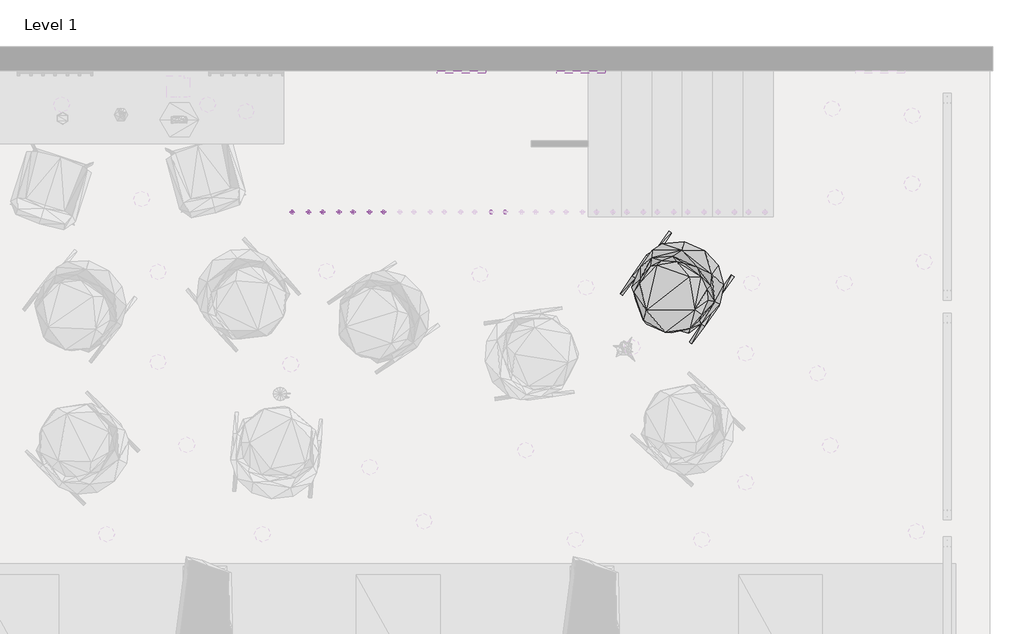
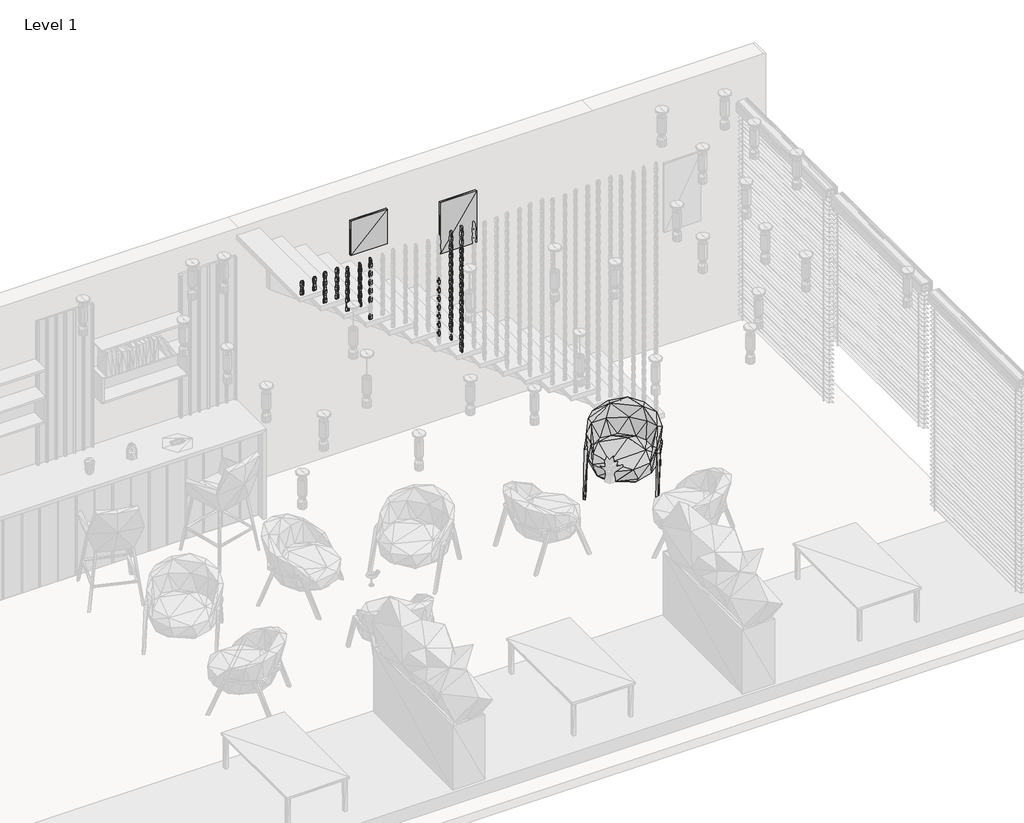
# One storey, part 4 of 12: 104 proxies, 3 geographic elements.
"""IFC4 building model written with IfcOpenShell, lengths in millimetres."""

from ifc_helpers import new_model, si_unit, origin, place, context, project, spatial, transform, mapped, element, save
from components import family1_family1_50133a43, family1_family1_d3af85bb, enscape_assetdefinition_lounge_armchair_12_enscape_3d8580c7, enscape_assetdefinition_wall_frame_02_enscape_4efbea40, enscape_assetdefinition_wall_frame_enscape_assetdefinition_9bfa83ed

model = new_model("IFC4")

# Units and contexts
model_context = context("Model", 3, world=origin())
ifc_project = project(units=[si_unit("LENGTHUNIT", "METRE", prefix="MILLI")], contexts=[model_context])

# Site, building, storey
site = spatial("IfcSite", under=ifc_project)
building = spatial("IfcBuilding", under=site)
storey = spatial("IfcBuildingStorey", under=building, Name="Level 1", Elevation=0.0)

# Proxies
placement = place(None, origin())
family1_family1_shape = family1_family1_50133a43(model_context)
element("IfcBuildingElementProxy", 1, Name="Family1 : Family1", ObjectType="Family1 : Family1", at=placement, inside=storey, context=model_context, shape_type="MappedRepresentation", body=[
    mapped(family1_family1_shape, transform((12865.1232124, 1139.760891, 574.0095089), x_axis=(-0.03315618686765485, 0.0, 0.9994501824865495), y_axis=(-0.9994501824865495, 0.0, -0.03315618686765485), z_axis=(0.0, -1.0, 0.0))),
])
element("IfcBuildingElementProxy", 2, Name="Family1 : Family1", ObjectType="Family1 : Family1", at=placement, inside=storey, context=model_context, shape_type="MappedRepresentation", body=[
    mapped(family1_family1_shape, transform((12865.1232124, 1139.760891, 674.0095089), x_axis=(-0.03315618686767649, 0.0, 0.9994501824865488), y_axis=(-0.9994501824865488, 0.0, -0.03315618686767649), z_axis=(0.0, -1.0, 0.0))),
])
element("IfcBuildingElementProxy", 3, Name="Family1 : Family1", ObjectType="Family1 : Family1", at=placement, inside=storey, context=model_context, shape_type="MappedRepresentation", body=[
    mapped(family1_family1_shape, transform((12865.1232124, 1139.760891, 774.0095089), x_axis=(-0.03315618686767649, 0.0, 0.9994501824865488), y_axis=(-0.9994501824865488, 0.0, -0.03315618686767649), z_axis=(0.0, -1.0, 0.0))),
])
element("IfcBuildingElementProxy", 4, Name="Family1 : Family1", ObjectType="Family1 : Family1", at=placement, inside=storey, context=model_context, shape_type="MappedRepresentation", body=[
    mapped(family1_family1_shape, transform((12865.1232124, 1139.760891, 874.0095089), x_axis=(-0.03315618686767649, 0.0, 0.9994501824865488), y_axis=(-0.9994501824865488, 0.0, -0.03315618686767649), z_axis=(0.0, -1.0, 0.0))),
])
element("IfcBuildingElementProxy", 5, Name="Family1 : Family1", ObjectType="Family1 : Family1", at=placement, inside=storey, context=model_context, shape_type="MappedRepresentation", body=[
    mapped(family1_family1_shape, transform((12865.1232124, 1139.760891, 974.0095089), x_axis=(-0.03315618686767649, 0.0, 0.9994501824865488), y_axis=(-0.9994501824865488, 0.0, -0.03315618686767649), z_axis=(0.0, -1.0, 0.0))),
])
element("IfcBuildingElementProxy", 6, Name="Family1 : Family1", ObjectType="Family1 : Family1", at=placement, inside=storey, context=model_context, shape_type="MappedRepresentation", body=[
    mapped(family1_family1_shape, transform((12865.1232124, 1139.760891, 1074.0095089), x_axis=(-0.03315618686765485, 0.0, 0.9994501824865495), y_axis=(-0.9994501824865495, 0.0, -0.03315618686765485), z_axis=(0.0, -1.0, 0.0))),
])
element("IfcBuildingElementProxy", 7, Name="Family1 : Family1", ObjectType="Family1 : Family1", at=placement, inside=storey, context=model_context, shape_type="MappedRepresentation", body=[
    mapped(family1_family1_shape, transform((12865.1232124, 1139.760891, 1174.0095089), x_axis=(-0.03315618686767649, 0.0, 0.9994501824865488), y_axis=(-0.9994501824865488, 0.0, -0.03315618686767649), z_axis=(0.0, -1.0, 0.0))),
])
element("IfcBuildingElementProxy", 8, Name="Family1 : Family1", ObjectType="Family1 : Family1", at=placement, inside=storey, context=model_context, shape_type="MappedRepresentation", body=[
    mapped(family1_family1_shape, transform((12865.1232124, 1139.760891, 1274.0095089), x_axis=(-0.03315618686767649, 0.0, 0.9994501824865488), y_axis=(-0.9994501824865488, 0.0, -0.03315618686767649), z_axis=(0.0, -1.0, 0.0))),
])
element("IfcBuildingElementProxy", 9, Name="Family1 : Family1", ObjectType="Family1 : Family1", at=placement, inside=storey, context=model_context, shape_type="MappedRepresentation", body=[
    mapped(family1_family1_shape, transform((12865.1232124, 1139.760891, 1374.0095089), x_axis=(-0.03315618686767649, 0.0, 0.9994501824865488), y_axis=(-0.9994501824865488, 0.0, -0.03315618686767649), z_axis=(0.0, -1.0, 0.0))),
])
element("IfcBuildingElementProxy", 10, Name="Family1 : Family1", ObjectType="Family1 : Family1", at=placement, inside=storey, context=model_context, shape_type="MappedRepresentation", body=[
    mapped(family1_family1_shape, transform((12865.1232124, 1139.760891, 1474.0095089), x_axis=(-0.03315618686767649, 0.0, 0.9994501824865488), y_axis=(-0.9994501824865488, 0.0, -0.03315618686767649), z_axis=(0.0, -1.0, 0.0))),
])
element("IfcBuildingElementProxy", 11, Name="Family1 : Family1", ObjectType="Family1 : Family1", at=placement, inside=storey, context=model_context, shape_type="MappedRepresentation", body=[
    mapped(family1_family1_shape, transform((12865.1232124, 1139.760891, 474.0095089), x_axis=(-0.03315618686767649, 0.0, 0.9994501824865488), y_axis=(-0.9994501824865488, 0.0, -0.03315618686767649), z_axis=(0.0, -1.0, 0.0))),
])
element("IfcBuildingElementProxy", 12, Name="Family1 : Family1", ObjectType="Family1 : Family1", at=placement, inside=storey, context=model_context, shape_type="MappedRepresentation", body=[
    mapped(family1_family1_shape, transform((12865.1232124, 1139.760891, 374.0095089), x_axis=(-0.03315618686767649, 0.0, 0.9994501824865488), y_axis=(-0.9994501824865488, 0.0, -0.03315618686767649), z_axis=(0.0, -1.0, 0.0))),
])
element("IfcBuildingElementProxy", 13, Name="Family1 : Family1", ObjectType="Family1 : Family1", at=placement, inside=storey, context=model_context, shape_type="MappedRepresentation", body=[
    mapped(family1_family1_shape, transform((12865.1232124, 1139.760891, 1574.0095089), x_axis=(-0.03315618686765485, 0.0, 0.9994501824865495), y_axis=(-0.9994501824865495, 0.0, -0.03315618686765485), z_axis=(0.0, -1.0, 0.0))),
])
element("IfcBuildingElementProxy", 14, Name="Family1 : Family1", ObjectType="Family1 : Family1", at=placement, inside=storey, context=model_context, shape_type="MappedRepresentation", body=[
    mapped(family1_family1_shape, transform((12865.1232124, 1139.760891, 1674.0095089), x_axis=(-0.03315618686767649, 0.0, 0.9994501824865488), y_axis=(-0.9994501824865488, 0.0, -0.03315618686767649), z_axis=(0.0, -1.0, 0.0))),
])
element("IfcBuildingElementProxy", 15, Name="Family1 : Family1", ObjectType="Family1 : Family1", at=placement, inside=storey, context=model_context, shape_type="MappedRepresentation", body=[
    mapped(family1_family1_shape, transform((12865.1232124, 1139.760891, 1774.0095089), x_axis=(-0.03315618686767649, 0.0, 0.9994501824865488), y_axis=(-0.9994501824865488, 0.0, -0.03315618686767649), z_axis=(0.0, -1.0, 0.0))),
])
element("IfcBuildingElementProxy", 16, Name="Family1 : Family1", ObjectType="Family1 : Family1", at=placement, inside=storey, context=model_context, shape_type="MappedRepresentation", body=[
    mapped(family1_family1_shape, transform((12750.1232124, 1139.760891, 656.36245), x_axis=(-0.03315618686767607, 0.0, 0.9994501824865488), y_axis=(-0.9994501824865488, 0.0, -0.03315618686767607), z_axis=(0.0, -1.0, 0.0))),
])
element("IfcBuildingElementProxy", 17, Name="Family1 : Family1", ObjectType="Family1 : Family1", at=placement, inside=storey, context=model_context, shape_type="MappedRepresentation", body=[
    mapped(family1_family1_shape, transform((12750.1232124, 1139.760891, 756.36245), x_axis=(-0.03315618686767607, 0.0, 0.9994501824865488), y_axis=(-0.9994501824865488, 0.0, -0.03315618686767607), z_axis=(0.0, -1.0, 0.0))),
])
element("IfcBuildingElementProxy", 18, Name="Family1 : Family1", ObjectType="Family1 : Family1", at=placement, inside=storey, context=model_context, shape_type="MappedRepresentation", body=[
    mapped(family1_family1_shape, transform((12750.1232124, 1139.760891, 856.36245), x_axis=(-0.033156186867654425, 0.0, 0.9994501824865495), y_axis=(-0.9994501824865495, 0.0, -0.033156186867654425), z_axis=(0.0, -1.0, 0.0))),
])
element("IfcBuildingElementProxy", 19, Name="Family1 : Family1", ObjectType="Family1 : Family1", at=placement, inside=storey, context=model_context, shape_type="MappedRepresentation", body=[
    mapped(family1_family1_shape, transform((12750.1232124, 1139.760891, 956.36245), x_axis=(-0.03315618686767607, 0.0, 0.9994501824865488), y_axis=(-0.9994501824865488, 0.0, -0.03315618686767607), z_axis=(0.0, -1.0, 0.0))),
])
element("IfcBuildingElementProxy", 20, Name="Family1 : Family1", ObjectType="Family1 : Family1", at=placement, inside=storey, context=model_context, shape_type="MappedRepresentation", body=[
    mapped(family1_family1_shape, transform((12750.1232124, 1139.760891, 1056.36245), x_axis=(-0.03315618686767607, 0.0, 0.9994501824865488), y_axis=(-0.9994501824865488, 0.0, -0.03315618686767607), z_axis=(0.0, -1.0, 0.0))),
])
element("IfcBuildingElementProxy", 21, Name="Family1 : Family1", ObjectType="Family1 : Family1", at=placement, inside=storey, context=model_context, shape_type="MappedRepresentation", body=[
    mapped(family1_family1_shape, transform((12750.1232124, 1139.760891, 1156.36245), x_axis=(-0.03315618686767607, 0.0, 0.9994501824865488), y_axis=(-0.9994501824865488, 0.0, -0.03315618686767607), z_axis=(0.0, -1.0, 0.0))),
])
element("IfcBuildingElementProxy", 22, Name="Family1 : Family1", ObjectType="Family1 : Family1", at=placement, inside=storey, context=model_context, shape_type="MappedRepresentation", body=[
    mapped(family1_family1_shape, transform((12750.1232124, 1139.760891, 1256.36245), x_axis=(-0.03315618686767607, 0.0, 0.9994501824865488), y_axis=(-0.9994501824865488, 0.0, -0.03315618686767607), z_axis=(0.0, -1.0, 0.0))),
])
element("IfcBuildingElementProxy", 23, Name="Family1 : Family1", ObjectType="Family1 : Family1", at=placement, inside=storey, context=model_context, shape_type="MappedRepresentation", body=[
    mapped(family1_family1_shape, transform((12750.1232124, 1139.760891, 1356.36245), x_axis=(-0.03315618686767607, 0.0, 0.9994501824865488), y_axis=(-0.9994501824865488, 0.0, -0.03315618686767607), z_axis=(0.0, -1.0, 0.0))),
])
element("IfcBuildingElementProxy", 24, Name="Family1 : Family1", ObjectType="Family1 : Family1", at=placement, inside=storey, context=model_context, shape_type="MappedRepresentation", body=[
    mapped(family1_family1_shape, transform((12750.1232124, 1139.760891, 1456.36245), x_axis=(-0.03315618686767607, 0.0, 0.9994501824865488), y_axis=(-0.9994501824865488, 0.0, -0.03315618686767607), z_axis=(0.0, -1.0, 0.0))),
])
element("IfcBuildingElementProxy", 25, Name="Family1 : Family1", ObjectType="Family1 : Family1", at=placement, inside=storey, context=model_context, shape_type="MappedRepresentation", body=[
    mapped(family1_family1_shape, transform((12750.1232124, 1139.760891, 1556.36245), x_axis=(-0.03315618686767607, 0.0, 0.9994501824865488), y_axis=(-0.9994501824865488, 0.0, -0.03315618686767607), z_axis=(0.0, -1.0, 0.0))),
])
element("IfcBuildingElementProxy", 26, Name="Family1 : Family1", ObjectType="Family1 : Family1", at=placement, inside=storey, context=model_context, shape_type="MappedRepresentation", body=[
    mapped(family1_family1_shape, transform((12750.1232124, 1139.760891, 556.36245), x_axis=(-0.03315618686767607, 0.0, 0.9994501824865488), y_axis=(-0.9994501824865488, 0.0, -0.03315618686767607), z_axis=(0.0, -1.0, 0.0))),
])
element("IfcBuildingElementProxy", 27, Name="Family1 : Family1", ObjectType="Family1 : Family1", at=placement, inside=storey, context=model_context, shape_type="MappedRepresentation", body=[
    mapped(family1_family1_shape, transform((12750.1232124, 1139.760891, 1656.36245), x_axis=(-0.03315618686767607, 0.0, 0.9994501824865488), y_axis=(-0.9994501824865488, 0.0, -0.03315618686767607), z_axis=(0.0, -1.0, 0.0))),
])
element("IfcBuildingElementProxy", 28, Name="Family1 : Family1", ObjectType="Family1 : Family1", at=placement, inside=storey, context=model_context, shape_type="MappedRepresentation", body=[
    mapped(family1_family1_shape, transform((12750.1232124, 1139.760891, 1756.36245), x_axis=(-0.03315618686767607, 0.0, 0.9994501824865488), y_axis=(-0.9994501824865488, 0.0, -0.03315618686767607), z_axis=(0.0, -1.0, 0.0))),
])
element("IfcBuildingElementProxy", 29, Name="Family1 : Family1", ObjectType="Family1 : Family1", at=placement, inside=storey, context=model_context, shape_type="MappedRepresentation", body=[
    mapped(family1_family1_shape, transform((12615.1232124, 1139.760891, 656.36245), x_axis=(-0.03315618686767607, 0.0, 0.9994501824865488), y_axis=(-0.9994501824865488, 0.0, -0.03315618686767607), z_axis=(0.0, -1.0, 0.0))),
])
element("IfcBuildingElementProxy", 30, Name="Family1 : Family1", ObjectType="Family1 : Family1", at=placement, inside=storey, context=model_context, shape_type="MappedRepresentation", body=[
    mapped(family1_family1_shape, transform((12615.1232124, 1139.760891, 756.36245), x_axis=(-0.03315618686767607, 0.0, 0.9994501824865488), y_axis=(-0.9994501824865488, 0.0, -0.03315618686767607), z_axis=(0.0, -1.0, 0.0))),
])
element("IfcBuildingElementProxy", 31, Name="Family1 : Family1", ObjectType="Family1 : Family1", at=placement, inside=storey, context=model_context, shape_type="MappedRepresentation", body=[
    mapped(family1_family1_shape, transform((12615.1232124, 1139.760891, 856.36245), x_axis=(-0.033156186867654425, 0.0, 0.9994501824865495), y_axis=(-0.9994501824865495, 0.0, -0.033156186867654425), z_axis=(0.0, -1.0, 0.0))),
])
element("IfcBuildingElementProxy", 32, Name="Family1 : Family1", ObjectType="Family1 : Family1", at=placement, inside=storey, context=model_context, shape_type="MappedRepresentation", body=[
    mapped(family1_family1_shape, transform((12615.1232124, 1139.760891, 956.36245), x_axis=(-0.03315618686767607, 0.0, 0.9994501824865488), y_axis=(-0.9994501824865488, 0.0, -0.03315618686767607), z_axis=(0.0, -1.0, 0.0))),
])
element("IfcBuildingElementProxy", 33, Name="Family1 : Family1", ObjectType="Family1 : Family1", at=placement, inside=storey, context=model_context, shape_type="MappedRepresentation", body=[
    mapped(family1_family1_shape, transform((12615.1232124, 1139.760891, 1056.36245), x_axis=(-0.03315618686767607, 0.0, 0.9994501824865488), y_axis=(-0.9994501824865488, 0.0, -0.03315618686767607), z_axis=(0.0, -1.0, 0.0))),
])
element("IfcBuildingElementProxy", 34, Name="Family1 : Family1", ObjectType="Family1 : Family1", at=placement, inside=storey, context=model_context, shape_type="MappedRepresentation", body=[
    mapped(family1_family1_shape, transform((12615.1232124, 1139.760891, 1156.36245), x_axis=(-0.03315618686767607, 0.0, 0.9994501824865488), y_axis=(-0.9994501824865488, 0.0, -0.03315618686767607), z_axis=(0.0, -1.0, 0.0))),
])
element("IfcBuildingElementProxy", 35, Name="Family1 : Family1", ObjectType="Family1 : Family1", at=placement, inside=storey, context=model_context, shape_type="MappedRepresentation", body=[
    mapped(family1_family1_shape, transform((12615.1232124, 1139.760891, 1256.36245), x_axis=(-0.03315618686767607, 0.0, 0.9994501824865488), y_axis=(-0.9994501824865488, 0.0, -0.03315618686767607), z_axis=(0.0, -1.0, 0.0))),
])
element("IfcBuildingElementProxy", 36, Name="Family1 : Family1", ObjectType="Family1 : Family1", at=placement, inside=storey, context=model_context, shape_type="MappedRepresentation", body=[
    mapped(family1_family1_shape, transform((11750.1232124, 1139.760891, 1335.7742147), x_axis=(-0.033156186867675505, 0.0, 0.9994501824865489), y_axis=(-0.9994501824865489, 0.0, -0.033156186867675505), z_axis=(0.0, -1.0, 0.0))),
])
element("IfcBuildingElementProxy", 37, Name="Family1 : Family1", ObjectType="Family1 : Family1", at=placement, inside=storey, context=model_context, shape_type="MappedRepresentation", body=[
    mapped(family1_family1_shape, transform((11750.1232124, 1139.760891, 1435.7742147), x_axis=(-0.033156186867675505, 0.0, 0.9994501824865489), y_axis=(-0.9994501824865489, 0.0, -0.033156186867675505), z_axis=(0.0, -1.0, 0.0))),
])
element("IfcBuildingElementProxy", 38, Name="Family1 : Family1", ObjectType="Family1 : Family1", at=placement, inside=storey, context=model_context, shape_type="MappedRepresentation", body=[
    mapped(family1_family1_shape, transform((11750.1232124, 1139.760891, 1535.7742147), x_axis=(-0.03315618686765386, 0.0, 0.9994501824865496), y_axis=(-0.9994501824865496, 0.0, -0.03315618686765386), z_axis=(0.0, -1.0, 0.0))),
])
element("IfcBuildingElementProxy", 39, Name="Family1 : Family1", ObjectType="Family1 : Family1", at=placement, inside=storey, context=model_context, shape_type="MappedRepresentation", body=[
    mapped(family1_family1_shape, transform((11750.1232124, 1139.760891, 1635.7742147), x_axis=(-0.033156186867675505, 0.0, 0.9994501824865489), y_axis=(-0.9994501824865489, 0.0, -0.033156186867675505), z_axis=(0.0, -1.0, 0.0))),
])
element("IfcBuildingElementProxy", 40, Name="Family1 : Family1", ObjectType="Family1 : Family1", at=placement, inside=storey, context=model_context, shape_type="MappedRepresentation", body=[
    mapped(family1_family1_shape, transform((11615.1232124, 1139.760891, 1335.7742147), x_axis=(-0.033156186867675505, 0.0, 0.9994501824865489), y_axis=(-0.9994501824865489, 0.0, -0.033156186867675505), z_axis=(0.0, -1.0, 0.0))),
])
element("IfcBuildingElementProxy", 41, Name="Family1 : Family1", ObjectType="Family1 : Family1", at=placement, inside=storey, context=model_context, shape_type="MappedRepresentation", body=[
    mapped(family1_family1_shape, transform((11615.1232124, 1139.760891, 1435.7742147), x_axis=(-0.033156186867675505, 0.0, 0.9994501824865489), y_axis=(-0.9994501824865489, 0.0, -0.033156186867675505), z_axis=(0.0, -1.0, 0.0))),
])
element("IfcBuildingElementProxy", 42, Name="Family1 : Family1", ObjectType="Family1 : Family1", at=placement, inside=storey, context=model_context, shape_type="MappedRepresentation", body=[
    mapped(family1_family1_shape, transform((11615.1232124, 1139.760891, 1535.7742147), x_axis=(-0.03315618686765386, 0.0, 0.9994501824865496), y_axis=(-0.9994501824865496, 0.0, -0.03315618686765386), z_axis=(0.0, -1.0, 0.0))),
])
element("IfcBuildingElementProxy", 43, Name="Family1 : Family1", ObjectType="Family1 : Family1", at=placement, inside=storey, context=model_context, shape_type="MappedRepresentation", body=[
    mapped(family1_family1_shape, transform((11615.1232124, 1139.760891, 1635.7742147), x_axis=(-0.033156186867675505, 0.0, 0.9994501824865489), y_axis=(-0.9994501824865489, 0.0, -0.033156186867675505), z_axis=(0.0, -1.0, 0.0))),
])
element("IfcBuildingElementProxy", 44, Name="Family1 : Family1", ObjectType="Family1 : Family1", at=placement, inside=storey, context=model_context, shape_type="MappedRepresentation", body=[
    mapped(family1_family1_shape, transform((11500.1232124, 1139.760891, 1518.1271559), x_axis=(-0.03315618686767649, 0.0, 0.9994501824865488), y_axis=(-0.9994501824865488, 0.0, -0.03315618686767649), z_axis=(0.0, -1.0, 0.0))),
])
element("IfcBuildingElementProxy", 45, Name="Family1 : Family1", ObjectType="Family1 : Family1", at=placement, inside=storey, context=model_context, shape_type="MappedRepresentation", body=[
    mapped(family1_family1_shape, transform((11500.1232124, 1139.760891, 1618.1271559), x_axis=(-0.03315618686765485, 0.0, 0.9994501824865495), y_axis=(-0.9994501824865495, 0.0, -0.03315618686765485), z_axis=(0.0, -1.0, 0.0))),
])
element("IfcBuildingElementProxy", 46, Name="Family1 : Family1", ObjectType="Family1 : Family1", at=placement, inside=storey, context=model_context, shape_type="MappedRepresentation", body=[
    mapped(family1_family1_shape, transform((11500.1232124, 1139.760891, 1718.1271559), x_axis=(-0.03315618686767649, 0.0, 0.9994501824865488), y_axis=(-0.9994501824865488, 0.0, -0.03315618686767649), z_axis=(0.0, -1.0, 0.0))),
])
element("IfcBuildingElementProxy", 47, Name="Family1 : Family1", ObjectType="Family1 : Family1", at=placement, inside=storey, context=model_context, shape_type="MappedRepresentation", body=[
    mapped(family1_family1_shape, transform((11365.1232124, 1139.760891, 1518.1271559), x_axis=(-0.03315618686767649, 0.0, 0.9994501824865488), y_axis=(-0.9994501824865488, 0.0, -0.03315618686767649), z_axis=(0.0, -1.0, 0.0))),
])
element("IfcBuildingElementProxy", 48, Name="Family1 : Family1", ObjectType="Family1 : Family1", at=placement, inside=storey, context=model_context, shape_type="MappedRepresentation", body=[
    mapped(family1_family1_shape, transform((11365.1232124, 1139.760891, 1618.1271559), x_axis=(-0.03315618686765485, 0.0, 0.9994501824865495), y_axis=(-0.9994501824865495, 0.0, -0.03315618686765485), z_axis=(0.0, -1.0, 0.0))),
])
element("IfcBuildingElementProxy", 49, Name="Family1 : Family1", ObjectType="Family1 : Family1", at=placement, inside=storey, context=model_context, shape_type="MappedRepresentation", body=[
    mapped(family1_family1_shape, transform((11365.1232124, 1139.760891, 1718.1271559), x_axis=(-0.03315618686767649, 0.0, 0.9994501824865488), y_axis=(-0.9994501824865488, 0.0, -0.03315618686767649), z_axis=(0.0, -1.0, 0.0))),
])
element("IfcBuildingElementProxy", 50, Name="Family1 : Family1", ObjectType="Family1 : Family1", at=placement, inside=storey, context=model_context, shape_type="MappedRepresentation", body=[
    mapped(family1_family1_shape, transform((11250.1232124, 1139.760891, 1700.4800971), x_axis=(-0.03315618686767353, 0.0, 0.9994501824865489), y_axis=(-0.9994501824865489, 0.0, -0.03315618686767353), z_axis=(0.0, -1.0, 0.0))),
])
element("IfcBuildingElementProxy", 51, Name="Family1 : Family1", ObjectType="Family1 : Family1", at=placement, inside=storey, context=model_context, shape_type="MappedRepresentation", body=[
    mapped(family1_family1_shape, transform((11115.1232124, 1139.760891, 1700.4800971), x_axis=(-0.03315618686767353, 0.0, 0.9994501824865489), y_axis=(-0.9994501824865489, 0.0, -0.03315618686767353), z_axis=(0.0, -1.0, 0.0))),
])
element("IfcBuildingElementProxy", 52, Name="Family1 : Family1", ObjectType="Family1 : Family1", at=placement, inside=storey, context=model_context, shape_type="MappedRepresentation", body=[
    mapped(family1_family1_shape, transform((11865.1232124, 1139.760891, 1753.4212736), x_axis=(-0.03315618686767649, 0.0, 0.9994501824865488), y_axis=(-0.9994501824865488, 0.0, -0.03315618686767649), z_axis=(0.0, -1.0, 0.0))),
])
element("IfcBuildingElementProxy", 53, Name="Family1 : Family1", ObjectType="Family1 : Family1", at=placement, inside=storey, context=model_context, shape_type="MappedRepresentation", body=[
    mapped(family1_family1_shape, transform((11750.1232124, 1139.760891, 1735.7742147), x_axis=(-0.033156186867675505, 0.0, 0.9994501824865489), y_axis=(-0.9994501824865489, 0.0, -0.033156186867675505), z_axis=(0.0, -1.0, 0.0))),
])
element("IfcBuildingElementProxy", 54, Name="Family1 : Family1", ObjectType="Family1 : Family1", at=placement, inside=storey, context=model_context, shape_type="MappedRepresentation", body=[
    mapped(family1_family1_shape, transform((11615.1232124, 1139.760891, 1735.7742147), x_axis=(-0.033156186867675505, 0.0, 0.9994501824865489), y_axis=(-0.9994501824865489, 0.0, -0.033156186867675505), z_axis=(0.0, -1.0, 0.0))),
])
family1_family1_2_shape = family1_family1_d3af85bb(model_context)
element("IfcBuildingElementProxy", 55, Name="Family1 : Family1", ObjectType="Family1 : Family1", at=placement, inside=storey, context=model_context, shape_type="MappedRepresentation", body=[
    mapped(family1_family1_2_shape, transform((12865.1232124, 1139.760891, 624.0095089), x_axis=(-0.03315618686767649, 0.0, 0.9994501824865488), y_axis=(-0.9994501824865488, 0.0, -0.03315618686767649), z_axis=(0.0, -1.0, 0.0))),
])
element("IfcBuildingElementProxy", 56, Name="Family1 : Family1", ObjectType="Family1 : Family1", at=placement, inside=storey, context=model_context, shape_type="MappedRepresentation", body=[
    mapped(family1_family1_2_shape, transform((12865.1232124, 1139.760891, 724.0095089), x_axis=(-0.03315618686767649, 0.0, 0.9994501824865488), y_axis=(-0.9994501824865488, 0.0, -0.03315618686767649), z_axis=(0.0, -1.0, 0.0))),
])
element("IfcBuildingElementProxy", 57, Name="Family1 : Family1", ObjectType="Family1 : Family1", at=placement, inside=storey, context=model_context, shape_type="MappedRepresentation", body=[
    mapped(family1_family1_2_shape, transform((12865.1232124, 1139.760891, 824.0095089), x_axis=(-0.03315618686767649, 0.0, 0.9994501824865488), y_axis=(-0.9994501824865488, 0.0, -0.03315618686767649), z_axis=(0.0, -1.0, 0.0))),
])
element("IfcBuildingElementProxy", 58, Name="Family1 : Family1", ObjectType="Family1 : Family1", at=placement, inside=storey, context=model_context, shape_type="MappedRepresentation", body=[
    mapped(family1_family1_2_shape, transform((12865.1232124, 1139.760891, 924.0095089), x_axis=(-0.03315618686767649, 0.0, 0.9994501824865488), y_axis=(-0.9994501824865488, 0.0, -0.03315618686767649), z_axis=(0.0, -1.0, 0.0))),
])
element("IfcBuildingElementProxy", 59, Name="Family1 : Family1", ObjectType="Family1 : Family1", at=placement, inside=storey, context=model_context, shape_type="MappedRepresentation", body=[
    mapped(family1_family1_2_shape, transform((12865.1232124, 1139.760891, 1024.0095089), x_axis=(-0.03315618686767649, 0.0, 0.9994501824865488), y_axis=(-0.9994501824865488, 0.0, -0.03315618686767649), z_axis=(0.0, -1.0, 0.0))),
])
element("IfcBuildingElementProxy", 60, Name="Family1 : Family1", ObjectType="Family1 : Family1", at=placement, inside=storey, context=model_context, shape_type="MappedRepresentation", body=[
    mapped(family1_family1_2_shape, transform((12865.1232124, 1139.760891, 1124.0095089), x_axis=(-0.03315618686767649, 0.0, 0.9994501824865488), y_axis=(-0.9994501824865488, 0.0, -0.03315618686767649), z_axis=(0.0, -1.0, 0.0))),
])
element("IfcBuildingElementProxy", 61, Name="Family1 : Family1", ObjectType="Family1 : Family1", at=placement, inside=storey, context=model_context, shape_type="MappedRepresentation", body=[
    mapped(family1_family1_2_shape, transform((12865.1232124, 1139.760891, 1224.0095089), x_axis=(-0.03315618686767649, 0.0, 0.9994501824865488), y_axis=(-0.9994501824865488, 0.0, -0.03315618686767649), z_axis=(0.0, -1.0, 0.0))),
])
element("IfcBuildingElementProxy", 62, Name="Family1 : Family1", ObjectType="Family1 : Family1", at=placement, inside=storey, context=model_context, shape_type="MappedRepresentation", body=[
    mapped(family1_family1_2_shape, transform((12865.1232124, 1139.760891, 1324.0095089), x_axis=(-0.03315618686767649, 0.0, 0.9994501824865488), y_axis=(-0.9994501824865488, 0.0, -0.03315618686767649), z_axis=(0.0, -1.0, 0.0))),
])
element("IfcBuildingElementProxy", 63, Name="Family1 : Family1", ObjectType="Family1 : Family1", at=placement, inside=storey, context=model_context, shape_type="MappedRepresentation", body=[
    mapped(family1_family1_2_shape, transform((12865.1232124, 1139.760891, 1424.0095089), x_axis=(-0.03315618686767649, 0.0, 0.9994501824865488), y_axis=(-0.9994501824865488, 0.0, -0.03315618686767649), z_axis=(0.0, -1.0, 0.0))),
])
element("IfcBuildingElementProxy", 64, Name="Family1 : Family1", ObjectType="Family1 : Family1", at=placement, inside=storey, context=model_context, shape_type="MappedRepresentation", body=[
    mapped(family1_family1_2_shape, transform((12865.1232124, 1139.760891, 1524.0095089), x_axis=(-0.03315618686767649, 0.0, 0.9994501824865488), y_axis=(-0.9994501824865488, 0.0, -0.03315618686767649), z_axis=(0.0, -1.0, 0.0))),
])
element("IfcBuildingElementProxy", 65, Name="Family1 : Family1", ObjectType="Family1 : Family1", at=placement, inside=storey, context=model_context, shape_type="MappedRepresentation", body=[
    mapped(family1_family1_2_shape, transform((12865.1232124, 1139.760891, 524.0095089), x_axis=(-0.03315618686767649, 0.0, 0.9994501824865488), y_axis=(-0.9994501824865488, 0.0, -0.03315618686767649), z_axis=(0.0, -1.0, 0.0))),
])
element("IfcBuildingElementProxy", 66, Name="Family1 : Family1", ObjectType="Family1 : Family1", at=placement, inside=storey, context=model_context, shape_type="MappedRepresentation", body=[
    mapped(family1_family1_2_shape, transform((12865.1232124, 1139.760891, 424.0095089), x_axis=(-0.03315618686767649, 0.0, 0.9994501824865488), y_axis=(-0.9994501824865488, 0.0, -0.03315618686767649), z_axis=(0.0, -1.0, 0.0))),
])
element("IfcBuildingElementProxy", 67, Name="Family1 : Family1", ObjectType="Family1 : Family1", at=placement, inside=storey, context=model_context, shape_type="MappedRepresentation", body=[
    mapped(family1_family1_2_shape, transform((12750.1232124, 1139.760891, 706.36245), x_axis=(-0.03315618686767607, 0.0, 0.9994501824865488), y_axis=(-0.9994501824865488, 0.0, -0.03315618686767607), z_axis=(0.0, -1.0, 0.0))),
])
element("IfcBuildingElementProxy", 68, Name="Family1 : Family1", ObjectType="Family1 : Family1", at=placement, inside=storey, context=model_context, shape_type="MappedRepresentation", body=[
    mapped(family1_family1_2_shape, transform((12750.1232124, 1139.760891, 806.36245), x_axis=(-0.03315618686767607, 0.0, 0.9994501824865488), y_axis=(-0.9994501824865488, 0.0, -0.03315618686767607), z_axis=(0.0, -1.0, 0.0))),
])
element("IfcBuildingElementProxy", 69, Name="Family1 : Family1", ObjectType="Family1 : Family1", at=placement, inside=storey, context=model_context, shape_type="MappedRepresentation", body=[
    mapped(family1_family1_2_shape, transform((12750.1232124, 1139.760891, 906.36245), x_axis=(-0.03315618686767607, 0.0, 0.9994501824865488), y_axis=(-0.9994501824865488, 0.0, -0.03315618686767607), z_axis=(0.0, -1.0, 0.0))),
])
element("IfcBuildingElementProxy", 70, Name="Family1 : Family1", ObjectType="Family1 : Family1", at=placement, inside=storey, context=model_context, shape_type="MappedRepresentation", body=[
    mapped(family1_family1_2_shape, transform((12750.1232124, 1139.760891, 1006.36245), x_axis=(-0.03315618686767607, 0.0, 0.9994501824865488), y_axis=(-0.9994501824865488, 0.0, -0.03315618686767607), z_axis=(0.0, -1.0, 0.0))),
])
element("IfcBuildingElementProxy", 71, Name="Family1 : Family1", ObjectType="Family1 : Family1", at=placement, inside=storey, context=model_context, shape_type="MappedRepresentation", body=[
    mapped(family1_family1_2_shape, transform((12750.1232124, 1139.760891, 1106.36245), x_axis=(-0.03315618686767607, 0.0, 0.9994501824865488), y_axis=(-0.9994501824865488, 0.0, -0.03315618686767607), z_axis=(0.0, -1.0, 0.0))),
])
element("IfcBuildingElementProxy", 72, Name="Family1 : Family1", ObjectType="Family1 : Family1", at=placement, inside=storey, context=model_context, shape_type="MappedRepresentation", body=[
    mapped(family1_family1_2_shape, transform((12750.1232124, 1139.760891, 1206.36245), x_axis=(-0.03315618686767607, 0.0, 0.9994501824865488), y_axis=(-0.9994501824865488, 0.0, -0.03315618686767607), z_axis=(0.0, -1.0, 0.0))),
])
element("IfcBuildingElementProxy", 73, Name="Family1 : Family1", ObjectType="Family1 : Family1", at=placement, inside=storey, context=model_context, shape_type="MappedRepresentation", body=[
    mapped(family1_family1_2_shape, transform((12750.1232124, 1139.760891, 1306.36245), x_axis=(-0.03315618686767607, 0.0, 0.9994501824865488), y_axis=(-0.9994501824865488, 0.0, -0.03315618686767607), z_axis=(0.0, -1.0, 0.0))),
])
element("IfcBuildingElementProxy", 74, Name="Family1 : Family1", ObjectType="Family1 : Family1", at=placement, inside=storey, context=model_context, shape_type="MappedRepresentation", body=[
    mapped(family1_family1_2_shape, transform((12750.1232124, 1139.760891, 1406.36245), x_axis=(-0.03315618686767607, 0.0, 0.9994501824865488), y_axis=(-0.9994501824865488, 0.0, -0.03315618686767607), z_axis=(0.0, -1.0, 0.0))),
])
element("IfcBuildingElementProxy", 75, Name="Family1 : Family1", ObjectType="Family1 : Family1", at=placement, inside=storey, context=model_context, shape_type="MappedRepresentation", body=[
    mapped(family1_family1_2_shape, transform((12750.1232124, 1139.760891, 1506.36245), x_axis=(-0.033156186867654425, 0.0, 0.9994501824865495), y_axis=(-0.9994501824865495, 0.0, -0.033156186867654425), z_axis=(0.0, -1.0, 0.0))),
])
element("IfcBuildingElementProxy", 76, Name="Family1 : Family1", ObjectType="Family1 : Family1", at=placement, inside=storey, context=model_context, shape_type="MappedRepresentation", body=[
    mapped(family1_family1_2_shape, transform((12750.1232124, 1139.760891, 1606.36245), x_axis=(-0.03315618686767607, 0.0, 0.9994501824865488), y_axis=(-0.9994501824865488, 0.0, -0.03315618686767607), z_axis=(0.0, -1.0, 0.0))),
])
element("IfcBuildingElementProxy", 77, Name="Family1 : Family1", ObjectType="Family1 : Family1", at=placement, inside=storey, context=model_context, shape_type="MappedRepresentation", body=[
    mapped(family1_family1_2_shape, transform((11865.1232124, 1139.760891, 1303.4212736), x_axis=(-0.03315618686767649, 0.0, 0.9994501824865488), y_axis=(-0.9994501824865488, 0.0, -0.03315618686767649), z_axis=(0.0, -1.0, 0.0))),
])
element("IfcBuildingElementProxy", 78, Name="Family1 : Family1", ObjectType="Family1 : Family1", at=placement, inside=storey, context=model_context, shape_type="MappedRepresentation", body=[
    mapped(family1_family1_2_shape, transform((11865.1232124, 1139.760891, 1403.4212736), x_axis=(-0.03315618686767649, 0.0, 0.9994501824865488), y_axis=(-0.9994501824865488, 0.0, -0.03315618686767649), z_axis=(0.0, -1.0, 0.0))),
])
element("IfcBuildingElementProxy", 79, Name="Family1 : Family1", ObjectType="Family1 : Family1", at=placement, inside=storey, context=model_context, shape_type="MappedRepresentation", body=[
    mapped(family1_family1_2_shape, transform((11865.1232124, 1139.760891, 1503.4212736), x_axis=(-0.03315618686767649, 0.0, 0.9994501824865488), y_axis=(-0.9994501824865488, 0.0, -0.03315618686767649), z_axis=(0.0, -1.0, 0.0))),
])
element("IfcBuildingElementProxy", 80, Name="Family1 : Family1", ObjectType="Family1 : Family1", at=placement, inside=storey, context=model_context, shape_type="MappedRepresentation", body=[
    mapped(family1_family1_2_shape, transform((11865.1232124, 1139.760891, 1603.4212736), x_axis=(-0.03315618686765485, 0.0, 0.9994501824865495), y_axis=(-0.9994501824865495, 0.0, -0.03315618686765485), z_axis=(0.0, -1.0, 0.0))),
])
element("IfcBuildingElementProxy", 81, Name="Family1 : Family1", ObjectType="Family1 : Family1", at=placement, inside=storey, context=model_context, shape_type="MappedRepresentation", body=[
    mapped(family1_family1_2_shape, transform((11865.1232124, 1139.760891, 1703.4212736), x_axis=(-0.03315618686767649, 0.0, 0.9994501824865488), y_axis=(-0.9994501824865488, 0.0, -0.03315618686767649), z_axis=(0.0, -1.0, 0.0))),
])
element("IfcBuildingElementProxy", 82, Name="Family1 : Family1", ObjectType="Family1 : Family1", at=placement, inside=storey, context=model_context, shape_type="MappedRepresentation", body=[
    mapped(family1_family1_2_shape, transform((11750.1232124, 1139.760891, 1385.7742147), x_axis=(-0.033156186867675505, 0.0, 0.9994501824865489), y_axis=(-0.9994501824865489, 0.0, -0.033156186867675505), z_axis=(0.0, -1.0, 0.0))),
])
element("IfcBuildingElementProxy", 83, Name="Family1 : Family1", ObjectType="Family1 : Family1", at=placement, inside=storey, context=model_context, shape_type="MappedRepresentation", body=[
    mapped(family1_family1_2_shape, transform((11750.1232124, 1139.760891, 1485.7742147), x_axis=(-0.033156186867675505, 0.0, 0.9994501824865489), y_axis=(-0.9994501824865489, 0.0, -0.033156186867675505), z_axis=(0.0, -1.0, 0.0))),
])
element("IfcBuildingElementProxy", 84, Name="Family1 : Family1", ObjectType="Family1 : Family1", at=placement, inside=storey, context=model_context, shape_type="MappedRepresentation", body=[
    mapped(family1_family1_2_shape, transform((11750.1232124, 1139.760891, 1585.7742147), x_axis=(-0.033156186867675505, 0.0, 0.9994501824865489), y_axis=(-0.9994501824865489, 0.0, -0.033156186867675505), z_axis=(0.0, -1.0, 0.0))),
])
element("IfcBuildingElementProxy", 85, Name="Family1 : Family1", ObjectType="Family1 : Family1", at=placement, inside=storey, context=model_context, shape_type="MappedRepresentation", body=[
    mapped(family1_family1_2_shape, transform((11750.1232124, 1139.760891, 1685.7742147), x_axis=(-0.033156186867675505, 0.0, 0.9994501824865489), y_axis=(-0.9994501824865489, 0.0, -0.033156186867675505), z_axis=(0.0, -1.0, 0.0))),
])
element("IfcBuildingElementProxy", 86, Name="Family1 : Family1", ObjectType="Family1 : Family1", at=placement, inside=storey, context=model_context, shape_type="MappedRepresentation", body=[
    mapped(family1_family1_2_shape, transform((11615.1232124, 1139.760891, 1385.7742147), x_axis=(-0.033156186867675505, 0.0, 0.9994501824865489), y_axis=(-0.9994501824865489, 0.0, -0.033156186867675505), z_axis=(0.0, -1.0, 0.0))),
])
element("IfcBuildingElementProxy", 87, Name="Family1 : Family1", ObjectType="Family1 : Family1", at=placement, inside=storey, context=model_context, shape_type="MappedRepresentation", body=[
    mapped(family1_family1_2_shape, transform((11615.1232124, 1139.760891, 1485.7742147), x_axis=(-0.033156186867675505, 0.0, 0.9994501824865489), y_axis=(-0.9994501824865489, 0.0, -0.033156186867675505), z_axis=(0.0, -1.0, 0.0))),
])
element("IfcBuildingElementProxy", 88, Name="Family1 : Family1", ObjectType="Family1 : Family1", at=placement, inside=storey, context=model_context, shape_type="MappedRepresentation", body=[
    mapped(family1_family1_2_shape, transform((11615.1232124, 1139.760891, 1585.7742147), x_axis=(-0.033156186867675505, 0.0, 0.9994501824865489), y_axis=(-0.9994501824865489, 0.0, -0.033156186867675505), z_axis=(0.0, -1.0, 0.0))),
])
element("IfcBuildingElementProxy", 89, Name="Family1 : Family1", ObjectType="Family1 : Family1", at=placement, inside=storey, context=model_context, shape_type="MappedRepresentation", body=[
    mapped(family1_family1_2_shape, transform((11615.1232124, 1139.760891, 1685.7742147), x_axis=(-0.033156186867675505, 0.0, 0.9994501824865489), y_axis=(-0.9994501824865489, 0.0, -0.033156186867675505), z_axis=(0.0, -1.0, 0.0))),
])
element("IfcBuildingElementProxy", 90, Name="Family1 : Family1", ObjectType="Family1 : Family1", at=placement, inside=storey, context=model_context, shape_type="MappedRepresentation", body=[
    mapped(family1_family1_2_shape, transform((11500.1232124, 1139.760891, 1568.1271559), x_axis=(-0.03315618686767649, 0.0, 0.9994501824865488), y_axis=(-0.9994501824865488, 0.0, -0.03315618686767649), z_axis=(0.0, -1.0, 0.0))),
])
element("IfcBuildingElementProxy", 91, Name="Family1 : Family1", ObjectType="Family1 : Family1", at=placement, inside=storey, context=model_context, shape_type="MappedRepresentation", body=[
    mapped(family1_family1_2_shape, transform((11500.1232124, 1139.760891, 1668.1271559), x_axis=(-0.03315618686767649, 0.0, 0.9994501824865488), y_axis=(-0.9994501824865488, 0.0, -0.03315618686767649), z_axis=(0.0, -1.0, 0.0))),
])
element("IfcBuildingElementProxy", 92, Name="Family1 : Family1", ObjectType="Family1 : Family1", at=placement, inside=storey, context=model_context, shape_type="MappedRepresentation", body=[
    mapped(family1_family1_2_shape, transform((11365.1232124, 1139.760891, 1568.1271559), x_axis=(-0.03315618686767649, 0.0, 0.9994501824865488), y_axis=(-0.9994501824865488, 0.0, -0.03315618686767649), z_axis=(0.0, -1.0, 0.0))),
])
element("IfcBuildingElementProxy", 93, Name="Family1 : Family1", ObjectType="Family1 : Family1", at=placement, inside=storey, context=model_context, shape_type="MappedRepresentation", body=[
    mapped(family1_family1_2_shape, transform((11365.1232124, 1139.760891, 1668.1271559), x_axis=(-0.03315618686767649, 0.0, 0.9994501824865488), y_axis=(-0.9994501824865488, 0.0, -0.03315618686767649), z_axis=(0.0, -1.0, 0.0))),
])
element("IfcBuildingElementProxy", 94, Name="Family1 : Family1", ObjectType="Family1 : Family1", at=placement, inside=storey, context=model_context, shape_type="MappedRepresentation", body=[
    mapped(family1_family1_2_shape, transform((11865.1232124, 1139.760891, 1103.4212736), x_axis=(-0.03315618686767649, 0.0, 0.9994501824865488), y_axis=(-0.9994501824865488, 0.0, -0.03315618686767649), z_axis=(0.0, -1.0, 0.0))),
])
element("IfcBuildingElementProxy", 95, Name="Family1 : Family1", ObjectType="Family1 : Family1", at=placement, inside=storey, context=model_context, shape_type="MappedRepresentation", body=[
    mapped(family1_family1_2_shape, transform((11750.1232124, 1139.760891, 1285.7742147), x_axis=(-0.033156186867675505, 0.0, 0.9994501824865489), y_axis=(-0.9994501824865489, 0.0, -0.033156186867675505), z_axis=(0.0, -1.0, 0.0))),
])
element("IfcBuildingElementProxy", 96, Name="Family1 : Family1", ObjectType="Family1 : Family1", at=placement, inside=storey, context=model_context, shape_type="MappedRepresentation", body=[
    mapped(family1_family1_2_shape, transform((11615.1232124, 1139.760891, 1285.7742147), x_axis=(-0.033156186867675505, 0.0, 0.9994501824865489), y_axis=(-0.9994501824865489, 0.0, -0.033156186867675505), z_axis=(0.0, -1.0, 0.0))),
])
element("IfcBuildingElementProxy", 97, Name="Family1 : Family1", ObjectType="Family1 : Family1", at=placement, inside=storey, context=model_context, shape_type="MappedRepresentation", body=[
    mapped(family1_family1_2_shape, transform((11500.1232124, 1139.760891, 1468.1271559), x_axis=(-0.03315618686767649, 0.0, 0.9994501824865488), y_axis=(-0.9994501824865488, 0.0, -0.03315618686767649), z_axis=(0.0, -1.0, 0.0))),
])
element("IfcBuildingElementProxy", 98, Name="Family1 : Family1", ObjectType="Family1 : Family1", at=placement, inside=storey, context=model_context, shape_type="MappedRepresentation", body=[
    mapped(family1_family1_2_shape, transform((11500.1232124, 1139.760891, 1768.1271559), x_axis=(-0.03315618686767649, 0.0, 0.9994501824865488), y_axis=(-0.9994501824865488, 0.0, -0.03315618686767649), z_axis=(0.0, -1.0, 0.0))),
])
element("IfcBuildingElementProxy", 99, Name="Family1 : Family1", ObjectType="Family1 : Family1", at=placement, inside=storey, context=model_context, shape_type="MappedRepresentation", body=[
    mapped(family1_family1_2_shape, transform((11365.1232124, 1139.760891, 1468.1271559), x_axis=(-0.03315618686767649, 0.0, 0.9994501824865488), y_axis=(-0.9994501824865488, 0.0, -0.03315618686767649), z_axis=(0.0, -1.0, 0.0))),
])
element("IfcBuildingElementProxy", 100, Name="Family1 : Family1", ObjectType="Family1 : Family1", at=placement, inside=storey, context=model_context, shape_type="MappedRepresentation", body=[
    mapped(family1_family1_2_shape, transform((11365.1232124, 1139.760891, 1768.1271559), x_axis=(-0.03315618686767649, 0.0, 0.9994501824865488), y_axis=(-0.9994501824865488, 0.0, -0.03315618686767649), z_axis=(0.0, -1.0, 0.0))),
])
element("IfcBuildingElementProxy", 101, Name="Family1 : Family1", ObjectType="Family1 : Family1", at=placement, inside=storey, context=model_context, shape_type="MappedRepresentation", body=[
    mapped(family1_family1_2_shape, transform((11250.1232124, 1139.760891, 1650.4800971), x_axis=(-0.03315618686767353, 0.0, 0.9994501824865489), y_axis=(-0.9994501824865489, 0.0, -0.03315618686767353), z_axis=(0.0, -1.0, 0.0))),
])
element("IfcBuildingElementProxy", 102, Name="Family1 : Family1", ObjectType="Family1 : Family1", at=placement, inside=storey, context=model_context, shape_type="MappedRepresentation", body=[
    mapped(family1_family1_2_shape, transform((11250.1232124, 1139.760891, 1750.4800971), x_axis=(-0.03315618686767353, 0.0, 0.9994501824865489), y_axis=(-0.9994501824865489, 0.0, -0.03315618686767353), z_axis=(0.0, -1.0, 0.0))),
])
element("IfcBuildingElementProxy", 103, Name="Family1 : Family1", ObjectType="Family1 : Family1", at=placement, inside=storey, context=model_context, shape_type="MappedRepresentation", body=[
    mapped(family1_family1_2_shape, transform((11115.1232124, 1139.760891, 1650.4800971), x_axis=(-0.03315618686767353, 0.0, 0.9994501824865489), y_axis=(-0.9994501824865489, 0.0, -0.03315618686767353), z_axis=(0.0, -1.0, 0.0))),
])
element("IfcBuildingElementProxy", 104, Name="Family1 : Family1", ObjectType="Family1 : Family1", at=placement, inside=storey, context=model_context, shape_type="MappedRepresentation", body=[
    mapped(family1_family1_2_shape, transform((11115.1232124, 1139.760891, 1750.4800971), x_axis=(-0.03315618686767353, 0.0, 0.9994501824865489), y_axis=(-0.9994501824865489, 0.0, -0.03315618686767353), z_axis=(0.0, -1.0, 0.0))),
])

# Geographic elements
enscape_assetdefinition_lounge_armchair_12_enscape_shape = enscape_assetdefinition_lounge_armchair_12_enscape_3d8580c7(model_context)
element("IfcGeographicElement", 105, ObjectType="Enscape AssetDefinition - Lounge Armchair 12 : Enscape AssetDefinition - Lounge Armchair 12", at=placement, inside=storey, context=model_context, shape_type="MappedRepresentation", body=[
    mapped(enscape_assetdefinition_lounge_armchair_12_enscape_shape, transform((12046.0951661, 517.5517186, 0.0), x_axis=(0.8191513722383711, -0.5735773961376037, 0.0), y_axis=(0.5735773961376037, 0.8191513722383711, 0.0), z_axis=(0.0, 0.0, 1.0))),
])
enscape_assetdefinition_wall_frame_02_enscape_shape = enscape_assetdefinition_wall_frame_02_enscape_4efbea40(model_context)
element("IfcGeographicElement", 106, ObjectType="Enscape AssetDefinition - Wall Frame 02 : Enscape AssetDefinition - Wall Frame 02", at=placement, inside=storey, context=model_context, shape_type="MappedRepresentation", body=[
    mapped(enscape_assetdefinition_wall_frame_02_enscape_shape, transform((10269.423468, 2299.760891, 2262.1289166), x_axis=(1.0, 0.0, 0.0), y_axis=(0.0, 1.0, 0.0), z_axis=(0.0, 0.0, 1.0))),
])
enscape_assetdefinition_wall_frame_enscape_assetdefinition_shape = enscape_assetdefinition_wall_frame_enscape_assetdefinition_9bfa83ed(model_context)
element("IfcGeographicElement", 107, ObjectType="Enscape AssetDefinition - Wall Frame : Enscape AssetDefinition - Wall Frame", at=placement, inside=storey, context=model_context, shape_type="MappedRepresentation", body=[
    mapped(enscape_assetdefinition_wall_frame_enscape_assetdefinition_shape, transform((11250.6837771, 2299.760891, 1932.7171519), x_axis=(1.0, 0.0, 0.0), y_axis=(0.0, 1.0, 0.0), z_axis=(0.0, 0.0, 1.0))),
])

save(model, "model.ifc")
